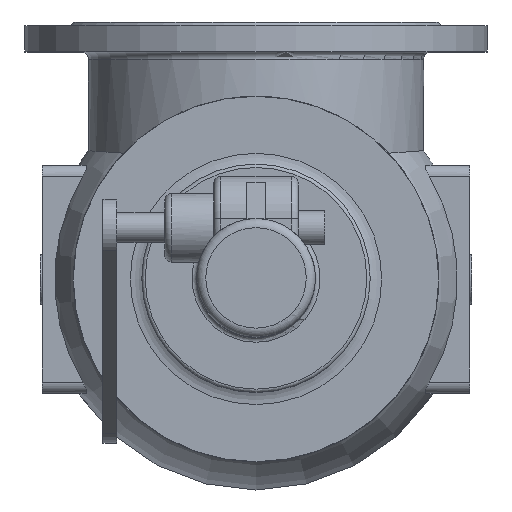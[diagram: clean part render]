
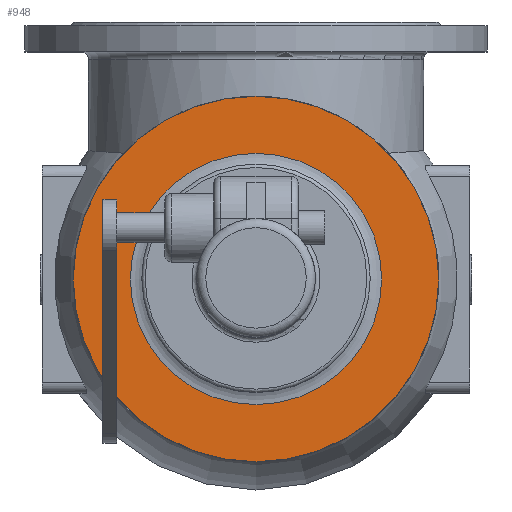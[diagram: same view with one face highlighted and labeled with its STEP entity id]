
A CAD part, top view. The second image highlights one B-rep face of the part: STEP entity #948.
In plain terms, the highlighted planar face has unit normal (0, 0, 1).
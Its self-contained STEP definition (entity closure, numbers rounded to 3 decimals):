
#948=ADVANCED_FACE('',(#2425,#2427),#2429,.T.);
#2425=FACE_BOUND('',#2426,.T.);
#2426=EDGE_LOOP('',(#3417));
#2427=FACE_BOUND('',#2428,.T.);
#2428=EDGE_LOOP('',(#3418,#3419));
#2429=PLANE('',#2430);
#2430=AXIS2_PLACEMENT_3D('',#2431,#2432,#2433);
#2431=CARTESIAN_POINT('',(0.,0.,430.));
#2432=DIRECTION('',(0.,0.,1.));
#2433=DIRECTION('',(0.,1.,0.));
#3417=ORIENTED_EDGE('',*,*,#3945,.T.);
#3418=ORIENTED_EDGE('',*,*,#3948,.F.);
#3419=ORIENTED_EDGE('',*,*,#3949,.F.);
#3945=EDGE_CURVE('',#4500,#4500,#4501,.T.);
#3948=EDGE_CURVE('',#4506,#4507,#4508,.T.);
#3949=EDGE_CURVE('',#4507,#4506,#4509,.T.);
#4500=VERTEX_POINT('',#6845);
#4501=CIRCLE('',#6846,160.);
#4506=VERTEX_POINT('',#6860);
#4507=VERTEX_POINT('',#6861);
#4508=CIRCLE('',#6862,110.);
#4509=CIRCLE('',#6866,110.);
#6845=CARTESIAN_POINT('',(0.,160.,430.));
#6846=AXIS2_PLACEMENT_3D('',#6847,#6848,#6849);
#6847=CARTESIAN_POINT('',(0.,0.,430.));
#6848=DIRECTION('',(0.,0.,1.));
#6849=DIRECTION('',(0.,1.,0.));
#6860=CARTESIAN_POINT('',(0.,-110.,430.));
#6861=CARTESIAN_POINT('',(0.,110.,430.));
#6862=AXIS2_PLACEMENT_3D('',#6863,#6864,#6865);
#6863=CARTESIAN_POINT('',(0.,0.,430.));
#6864=DIRECTION('',(0.,0.,1.));
#6865=DIRECTION('',(0.,-1.,0.));
#6866=AXIS2_PLACEMENT_3D('',#6867,#6868,#6869);
#6867=CARTESIAN_POINT('',(0.,0.,430.));
#6868=DIRECTION('',(0.,0.,1.));
#6869=DIRECTION('',(0.,1.,0.));
